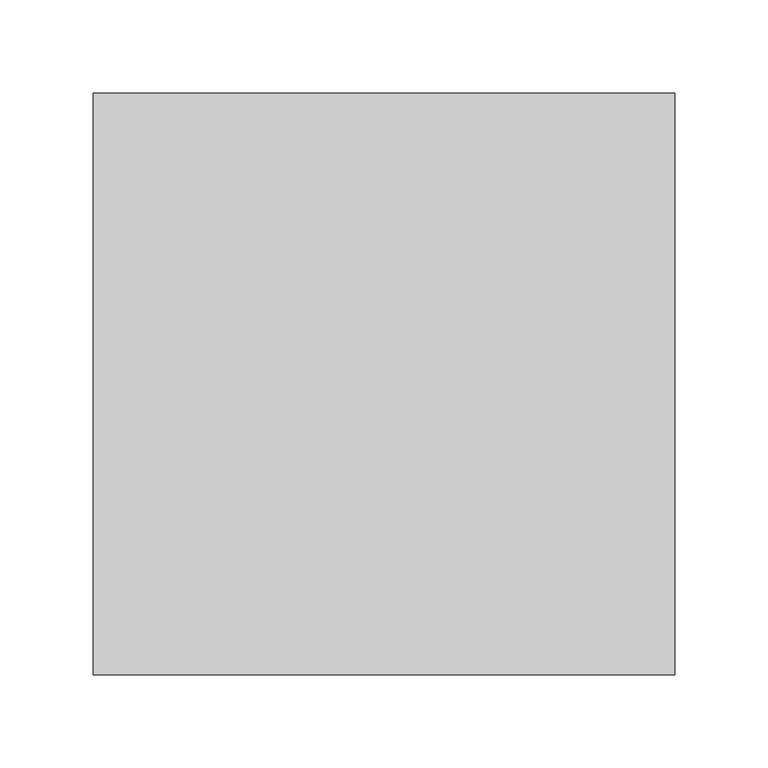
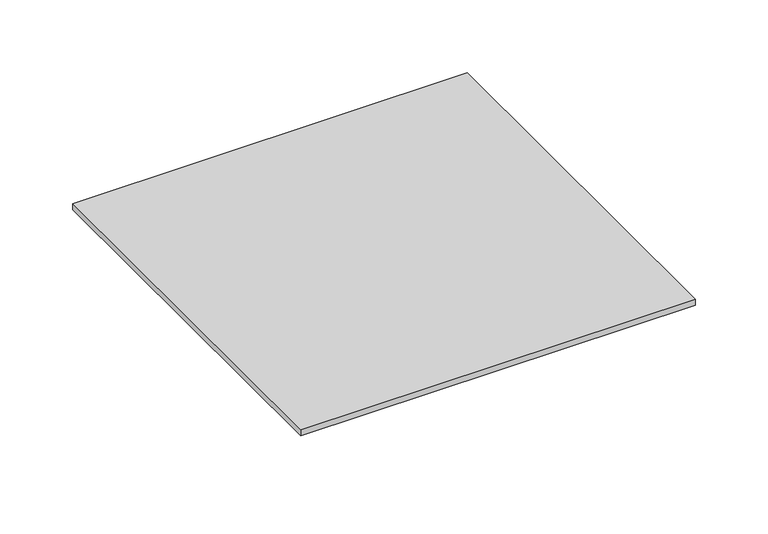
"""IFC4 building model written with IfcOpenShell, lengths in millimetres: duct fitting geometry, VE-Współdzielone-Króciec_Przyłączeniowy-ParaForma-Harmann-DRK : Harmann."""

import ifcopenshell
import ifcopenshell.guid

model = None  # the IFC model being written
_history = None  # IfcOwnerHistory: only IFC2X3 demands one
_inside = {}  # id of a spatial element -> (the spatial element, [elements in it])
_under = {}  # id of a project, library or spatial element -> (it, [spatial elements below it])
_declared = {}  # id of a project -> (the project, [libraries it declares])
_typed = {}  # id of a type object -> (the type object, [elements of that type])
_made_of = {}  # id of a material, layer set ... -> (it, [elements and type objects made of it])


def new_model(schema):
    """Start an empty IFC model of exactly this schema.

    Asked for "IFC4X3", IfcOpenShell would pick the latest addendum, in which some entities
    have other attributes; the version numbers below select the first issue.
    IFC2X3 requires an IfcOwnerHistory on every rooted entity: one is made here for all.
    """
    global model, _history
    if schema == "IFC4X3":
        model = ifcopenshell.file(schema_version=(4, 3, 0, 0))
    else:
        model = ifcopenshell.file(schema=schema)
    _inside.clear()
    _under.clear()
    _declared.clear()
    _typed.clear()
    _made_of.clear()
    _history = None
    if model.schema == "IFC2X3":
        org = make("IfcOrganization", Name="unknown")
        user = make(
            "IfcPersonAndOrganization",
            ThePerson=make("IfcPerson", FamilyName="unknown"),
            TheOrganization=org,
        )
        app = make(
            "IfcApplication",
            ApplicationDeveloper=org,
            Version="unknown",
            ApplicationFullName="unknown",
            ApplicationIdentifier="unknown",
        )
        _history = make(
            "IfcOwnerHistory",
            OwningUser=user,
            OwningApplication=app,
            ChangeAction="ADDED",
            CreationDate=0,
        )
    return model


def make(cls, **values):
    """One entity of the class cls with the attributes given. An attribute that is None is left unset."""
    return model.create_entity(
        cls, **{name: value for name, value in values.items() if value is not None}
    )


def rooted(cls, **values):
    """An entity with a GlobalId (a new one), such as an element, a storey or a relation."""
    return make(cls, GlobalId=ifcopenshell.guid.new(), OwnerHistory=_history, **values)


def si_unit(unit_type, name, prefix=None):
    """IfcSIUnit, for example si_unit("LENGTHUNIT", "METRE", prefix="MILLI")."""
    return make("IfcSIUnit", UnitType=unit_type, Prefix=prefix, Name=name)


def assignment(units):
    """IfcUnitAssignment: the units of a project."""
    return None if units is None else make("IfcUnitAssignment", Units=units)


def point(xyz):
    """IfcCartesianPoint."""
    return None if xyz is None else make("IfcCartesianPoint", Coordinates=xyz)


def direction(xyz):
    """IfcDirection."""
    return None if xyz is None else make("IfcDirection", DirectionRatios=xyz)


def frame(location, z_axis=None, x_axis=None):
    """IfcAxis2Placement3D, a coordinate frame: its origin and axes. An axis left out is left unset."""
    return make(
        "IfcAxis2Placement3D",
        Location=point(location),
        Axis=direction(z_axis),
        RefDirection=direction(x_axis),
    )


def frame_2d(location, x_axis=None):
    """IfcAxis2Placement2D, a coordinate frame in the plane: its origin and x axis."""
    return make(
        "IfcAxis2Placement2D", Location=point(location), RefDirection=direction(x_axis)
    )


def origin():
    """The frame at (0, 0, 0) with its axes left unset."""
    return frame((0.0, 0.0, 0.0))


def origin_2d():
    """The frame at (0, 0) in the plane with its x axis left unset."""
    return frame_2d((0.0, 0.0))


def place(relative_to, where):
    """IfcLocalPlacement: puts the frame where relative to a parent placement (None: the world)."""
    return make(
        "IfcLocalPlacement", PlacementRelTo=relative_to, RelativePlacement=where
    )


def context(
    kind, dimensions, precision=None, world=None, true_north=None, identifier=None
):
    """IfcGeometricRepresentationContext, for example the 3D "Model" context."""
    return make(
        "IfcGeometricRepresentationContext",
        ContextIdentifier=identifier,
        ContextType=kind,
        CoordinateSpaceDimension=dimensions,
        Precision=precision,
        WorldCoordinateSystem=world,
        TrueNorth=true_north,
    )


def project(units=None, contexts=None):
    """IfcProject with its units and contexts."""
    return rooted(
        "IfcProject",
        Name="project",
        RepresentationContexts=contexts,
        UnitsInContext=assignment(units),
    )


def spatial(cls, under=None, at=None, **own):
    """A site, building, storey or space (cls), placed at a placement, below another one or the project."""
    s = rooted(cls, ObjectPlacement=at, **own)
    if under is not None:
        _under.setdefault(under.id(), (under, []))[1].append(s)
    return s


def polyline(points):
    """IfcPolyline through the points."""
    return make("IfcPolyline", Points=[point(p) for p in points])


def circle_curve(where, radius):
    """IfcCircle in the frame where."""
    return make("IfcCircle", Position=where, Radius=radius)


def trimmed(basis, trim1, trim2, sense, master):
    """IfcTrimmedCurve: the piece of a basis curve between two trims."""
    return make(
        "IfcTrimmedCurve",
        BasisCurve=basis,
        Trim1=trim1,
        Trim2=trim2,
        SenseAgreement=sense,
        MasterRepresentation=master,
    )


def segment(curve, same_sense, transition):
    """IfcCompositeCurveSegment."""
    return make(
        "IfcCompositeCurveSegment",
        Transition=transition,
        SameSense=same_sense,
        ParentCurve=curve,
    )


def composite_curve(segments, self_intersect=None):
    """IfcCompositeCurve: segments joined end to end."""
    return make("IfcCompositeCurve", Segments=segments, SelfIntersect=self_intersect)


def outline(outer, holes=None, kind="AREA"):
    """IfcArbitraryClosedProfileDef: a profile drawn as a closed curve; with holes, ...WithVoids."""
    if holes is None:
        return make("IfcArbitraryClosedProfileDef", ProfileType=kind, OuterCurve=outer)
    return make(
        "IfcArbitraryProfileDefWithVoids",
        ProfileType=kind,
        OuterCurve=outer,
        InnerCurves=holes,
    )


def extrude(swept, where, along, depth):
    """IfcExtrudedAreaSolid: the profile swept, set in the frame where, extruded along a direction by depth."""
    return make(
        "IfcExtrudedAreaSolid",
        SweptArea=swept,
        Position=where,
        ExtrudedDirection=direction(along),
        Depth=depth,
    )


def shape(context_of_items, identifier, shape_type, items):
    """IfcShapeRepresentation: the items that make up one representation, for example the "Body"."""
    return make(
        "IfcShapeRepresentation",
        ContextOfItems=context_of_items,
        RepresentationIdentifier=identifier,
        RepresentationType=shape_type,
        Items=items,
    )


def source(mapping_origin, context_of_items, identifier, shape_type, items):
    """IfcRepresentationMap: a shape defined once, which mapped items show again and again."""
    return make(
        "IfcRepresentationMap",
        MappingOrigin=mapping_origin,
        MappedRepresentation=shape(context_of_items, identifier, shape_type, items),
    )


def transform(
    local_origin,
    x_axis=None,
    y_axis=None,
    z_axis=None,
    scale=None,
    scale2=None,
    scale3=None,
    uniform=True,
):
    """IfcCartesianTransformationOperator3D, or its non-uniform kind. x_axis, y_axis, z_axis: its Axis1, 2, 3."""
    if uniform:
        return make(
            "IfcCartesianTransformationOperator3D",
            Axis1=direction(x_axis),
            Axis2=direction(y_axis),
            LocalOrigin=point(local_origin),
            Scale=scale,
            Axis3=direction(z_axis),
        )
    return make(
        "IfcCartesianTransformationOperator3DnonUniform",
        Axis1=direction(x_axis),
        Axis2=direction(y_axis),
        LocalOrigin=point(local_origin),
        Scale=scale,
        Axis3=direction(z_axis),
        Scale2=scale2,
        Scale3=scale3,
    )


def mapped(mapping_source, mapping_target):
    """IfcMappedItem: shows the shape of a source again, moved by a transform."""
    return make(
        "IfcMappedItem", MappingSource=mapping_source, MappingTarget=mapping_target
    )


def made_of(thing, what):
    """Note that an element or type object is made of a material, layer set ...; save() writes the relation."""
    if what is not None:
        _made_of.setdefault(what.id(), (what, []))[1].append(thing)
    return thing


def element(
    cls,
    number,
    at=None,
    inside=None,
    cuts=None,
    type_object=None,
    material=None,
    context=None,
    identifier="Body",
    shape_type=None,
    held_by="IfcProductDefinitionShape",
    body=None,
    shapes=None,
    **own,
):
    """One element of the class cls, such as IfcWall. Its Tag is "e" and its number.

    at: its placement. inside: the storey or other place that contains it. cuts: it is an
    opening in that element (IfcRelVoidsElement). A single representation is given by context,
    identifier, shape_type and body (its items); several are given by shapes. held_by: the class
    of the entity that holds the representations. save() writes the other relations.
    """
    e = rooted(cls, Tag="e%d" % number, ObjectPlacement=at, **own)
    if body is not None:
        shapes = [shape(context, identifier, shape_type, body)]
    if shapes is not None:
        e.Representation = make(held_by, Representations=shapes)
    if inside is not None:
        _inside.setdefault(inside.id(), (inside, []))[1].append(e)
    if cuts is not None:
        rooted(
            "IfcRelVoidsElement", RelatingBuildingElement=cuts, RelatedOpeningElement=e
        )
    if type_object is not None:
        _typed.setdefault(type_object.id(), (type_object, []))[1].append(e)
    return made_of(e, material)


def aggregate(whole, parts):
    """IfcRelAggregates: a whole, such as a stair, and the parts it consists of."""
    return rooted("IfcRelAggregates", RelatingObject=whole, RelatedObjects=parts)


def save(model, path):
    """Write the relations noted so far, then the file.

    IfcRelAggregates (storeys below a building ...), IfcRelContainedInSpatialStructure (elements
    in a storey), IfcRelDefinesByType, IfcRelAssociatesMaterial and IfcRelDeclares: one each for
    every whole, place, type object, material and project.
    """
    for whole, parts in _under.values():
        aggregate(whole, parts)
    for where, things in _inside.values():
        rooted(
            "IfcRelContainedInSpatialStructure",
            RelatedElements=things,
            RelatingStructure=where,
        )
    for kind, things in _typed.values():
        rooted("IfcRelDefinesByType", RelatedObjects=things, RelatingType=kind)
    for what, things in _made_of.values():
        rooted("IfcRelAssociatesMaterial", RelatedObjects=things, RelatingMaterial=what)
    for by, libraries in _declared.values():
        rooted("IfcRelDeclares", RelatingContext=by, RelatedDefinitions=libraries)
    model.write(path)


def duct_fitting_0662e958(model_context):
    return source(origin(), model_context, "Body", "SweptSolid", [
        extrude(outline(composite_curve([segment(trimmed(circle_curve(origin_2d(), 79.0), [point((0.0, -79.0))], [point((0.0, 79.0))], False, "CARTESIAN"), True, "CONTINUOUS"), segment(trimmed(circle_curve(origin_2d(), 79.0), [point((0.0, 79.0))], [point((0.0, -79.0))], False, "CARTESIAN"), True, "CONTINUOUS")], self_intersect=False)), frame((0.0, 0.0, -26.0), z_axis=(0.0, 0.0, 1.0), x_axis=(1.0, 0.0, 0.0)), (0.0, 0.0, 1.0), 21.0),
        extrude(outline(polyline([(156.0, 156.0), (156.0, -156.0), (-156.0, -156.0), (-156.0, 156.0), (156.0, 156.0)])), frame((0.0, 0.0, -5.0), z_axis=(0.0, 0.0, 1.0), x_axis=(1.0, 0.0, 0.0)), (0.0, 0.0, 1.0), 5.0),
    ])


if __name__ == "__main__":
    model = new_model("IFC4")
    model_context = context("Model", 3, world=origin())
    ifc_project = project(units=[si_unit("LENGTHUNIT", "METRE", prefix="MILLI")], contexts=[model_context])
    site = spatial("IfcSite", under=ifc_project)
    building = spatial("IfcBuilding", under=site)
    placement = place(None, origin())
    duct_fitting_shape = duct_fitting_0662e958(model_context)
    element("IfcDuctFitting", 1, ObjectType="VE-Współdzielone-Króciec_Przyłączeniowy-ParaForma-Harmann-DRK : Harmann", at=placement, inside=building, context=model_context, shape_type="MappedRepresentation", body=[
        mapped(duct_fitting_shape, transform((0.0, 0.0, 0.0), x_axis=(1.0, 0.0, 0.0), y_axis=(0.0, 1.0, 0.0), z_axis=(0.0, 0.0, 1.0))),
    ])
    save(model, "model.ifc")
